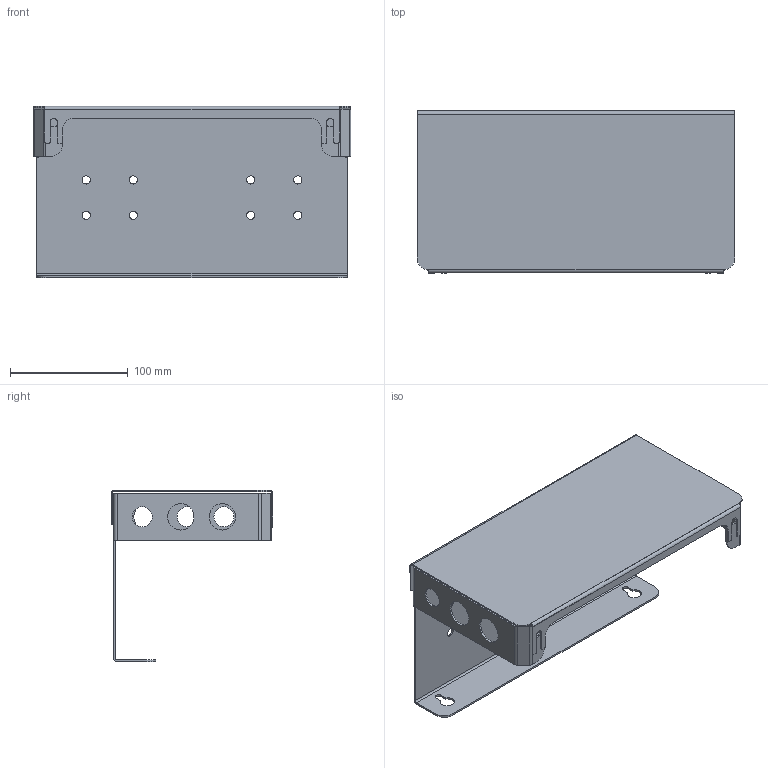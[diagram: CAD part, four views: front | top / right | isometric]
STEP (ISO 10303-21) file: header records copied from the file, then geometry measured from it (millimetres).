
FILE_DESCRIPTION(/* description */ (''),/* implementation_level */ '2;1');
FILE_NAME(/* name */ 'RO400 Lite rev 6.step',/* time_stamp */ '2026-08-04T12:47:25+03:00',/* author */ (''),/* organization */ (''),/* preprocessor_version */ 'ST-DEVELOPER v20.1',/* originating_system */ 'Autodesk Translation Framework v15.8.0.0',/* authorisation */ '');
FILE_SCHEMA (('AUTOMOTIVE_DESIGN { 1 0 10303 214 3 1 1 }'));
Length unit declared in the file: millimetre
Products named in the file (3): RO400 Lite rev 6; корпус фильтра; передняя панель
Assembly tree (2 placements, depth 2):
  RO400 Lite rev 6
    корпус фильтра
    передняя панель
Bounding box: 270 x 137.7 x 145.6 mm (x, y, z)
Volume: 127254.1 mm3; surface area: 202857.6 mm2
Topology: 2 solids, 2 shells, 164 faces, 476 edges, 316 vertices
Faces by surface type: plane 89, cylinder 75
Full cylindrical faces by diameter (mm): 7 x8, 17 x3, 22.4 x3
Entity records: 5633 total; most frequent: DIRECTION 966, CARTESIAN_POINT 962, ORIENTED_EDGE 952, EDGE_CURVE 476, LINE 326, VECTOR 326, AXIS2_PLACEMENT_3D 320, VERTEX_POINT 316
